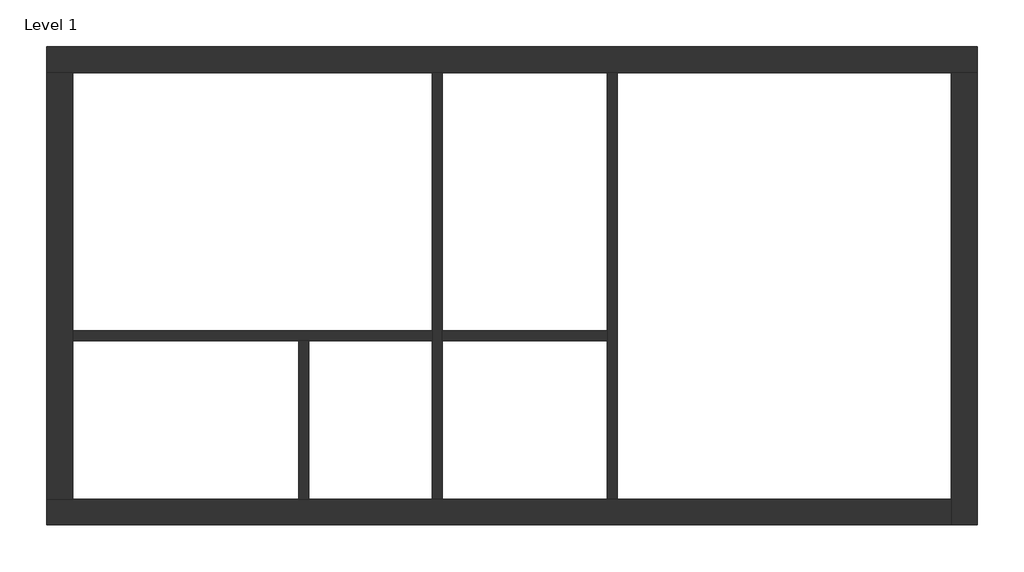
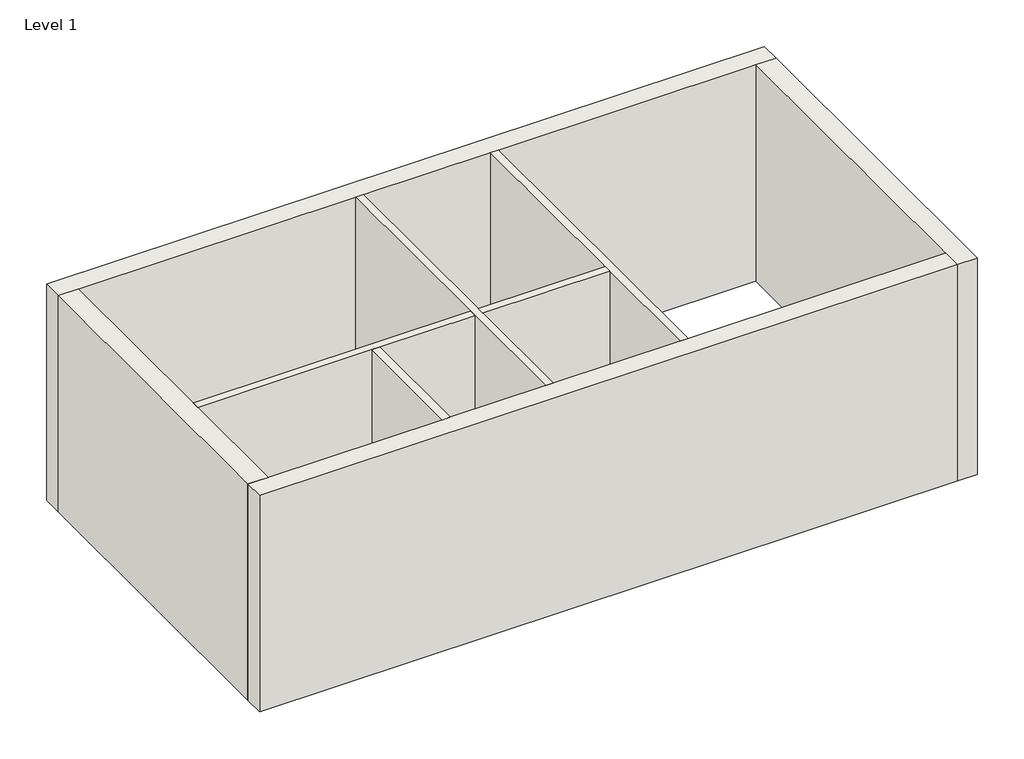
# One storey: 8 walls.
"""IFC4 building model written with IfcOpenShell, lengths in millimetres."""

from ifc_helpers import new_model, si_unit, origin, origin_with_axes, place, context, project, spatial, polyline, outline, extrude, faceted_brep, element, save

model = new_model("IFC4")

# Units and contexts
model_context = context("Model", 3, world=origin())
ifc_project = project(units=[si_unit("LENGTHUNIT", "METRE", prefix="MILLI")], contexts=[model_context])

# Site, building, storey
site = spatial("IfcSite", under=ifc_project)
building = spatial("IfcBuilding", under=site)
storey = spatial("IfcBuildingStorey", under=building, Name="Level 1", Elevation=0.0)

# Walls
placement = place(None, origin())
element("IfcWall", 1, ObjectType="Exterior - Brick on Mtl. Stud", at=placement, inside=storey, context=model_context, shape_type="Brep", body=[
    faceted_brep([(-15285.3416203, 2406.1188386, 0.0), (-14935.3416203, 2406.1188386, 0.0), (-10086.8416203, 2406.1188386, 0.0), (-9951.3416203, 2406.1188386, 0.0), (-7733.0916203, 2406.1188386, 0.0), (-7597.5916203, 2406.1188386, 0.0), (-3093.3416203, 2406.1188386, 0.0), (-2743.3416203, 2406.1188386, 0.0), (-2743.3416203, 2406.1188386, 4000.0), (-3093.3416203, 2406.1188386, 4000.0), (-7597.5916203, 2406.1188386, 4000.0), (-7733.0916203, 2406.1188386, 4000.0), (-9951.3416203, 2406.1188386, 4000.0), (-10086.8416203, 2406.1188386, 4000.0), (-14935.3416203, 2406.1188386, 4000.0), (-15285.3416203, 2406.1188386, 4000.0), (-15285.3416203, 2756.1188386, 0.0), (-15285.3416203, 2756.1188386, 4000.0), (-2743.3416203, 2756.1188386, 4000.0), (-2743.3416203, 2756.1188386, 0.0)], [[[0, 1, 2, 3, 4, 5, 6, 7, 8, 9, 10, 11, 12, 13, 14, 15]], [[16, 17, 18, 19]], [[7, 6, 5, 4, 3, 2, 1, 0, 16, 19]], [[15, 14, 13, 12, 11, 10, 9, 8, 18, 17]], [[8, 7, 19, 18]], [[0, 15, 17, 16]]]),
])
element("IfcWall", 2, ObjectType="Exterior - Brick on Mtl. Stud", at=placement, inside=storey, context=model_context, shape_type="Brep", body=[
    faceted_brep([(-3093.3416203, 2406.1188386, 0.0), (-3093.3416203, -3339.8811614, 0.0), (-3093.3416203, -3689.8811614, 0.0), (-3093.3416203, -3689.8811614, 4000.0), (-3093.3416203, -3339.8811614, 4000.0), (-3093.3416203, 2406.1188386, 4000.0), (-2743.3416203, 2406.1188386, 0.0), (-2743.3416203, 2406.1188386, 4000.0), (-2743.3416203, -3689.8811614, 4000.0), (-2743.3416203, -3689.8811614, 0.0)], [[[0, 1, 2, 3, 4, 5]], [[6, 7, 8, 9]], [[2, 1, 0, 6, 9]], [[5, 4, 3, 8, 7]], [[0, 5, 7, 6]], [[3, 2, 9, 8]]]),
])
element("IfcWall", 3, ObjectType="Exterior - Brick on Mtl. Stud", at=placement, inside=storey, context=model_context, shape_type="Brep", body=[
    faceted_brep([(-3093.3416203, -3339.8811614, 0.0), (-7597.5916203, -3339.8811614, 0.0), (-7733.0916203, -3339.8811614, 0.0), (-9951.3416203, -3339.8811614, 0.0), (-10086.8416203, -3339.8811614, 0.0), (-11751.8416203, -3339.8811614, 0.0), (-11887.3416203, -3339.8811614, 0.0), (-14935.3416203, -3339.8811614, 0.0), (-15285.3416203, -3339.8811614, 0.0), (-15285.3416203, -3339.8811614, 4000.0), (-14935.3416203, -3339.8811614, 4000.0), (-11887.3416203, -3339.8811614, 4000.0), (-11751.8416203, -3339.8811614, 4000.0), (-10086.8416203, -3339.8811614, 4000.0), (-9951.3416203, -3339.8811614, 4000.0), (-7733.0916203, -3339.8811614, 4000.0), (-7597.5916203, -3339.8811614, 4000.0), (-3093.3416203, -3339.8811614, 4000.0), (-3093.3416203, -3689.8811614, 0.0), (-3093.3416203, -3689.8811614, 4000.0), (-15285.3416203, -3689.8811614, 4000.0), (-15285.3416203, -3689.8811614, 0.0)], [[[0, 1, 2, 3, 4, 5, 6, 7, 8, 9, 10, 11, 12, 13, 14, 15, 16, 17]], [[18, 19, 20, 21]], [[8, 7, 6, 5, 4, 3, 2, 1, 0, 18, 21]], [[17, 16, 15, 14, 13, 12, 11, 10, 9, 20, 19]], [[0, 17, 19, 18]], [[9, 8, 21, 20]]]),
])
element("IfcWall", 4, ObjectType="Exterior - Brick on Mtl. Stud", at=placement, inside=storey, context=model_context, shape_type="Brep", body=[
    faceted_brep([(-14935.3416203, -3339.8811614, 0.0), (-14935.3416203, -1205.8811614, 0.0), (-14935.3416203, -1070.3811614, 0.0), (-14935.3416203, 2406.1188386, 0.0), (-14935.3416203, 2406.1188386, 4000.0), (-14935.3416203, -1070.3811614, 4000.0), (-14935.3416203, -1205.8811614, 4000.0), (-14935.3416203, -3339.8811614, 4000.0), (-15285.3416203, -3339.8811614, 0.0), (-15285.3416203, -3339.8811614, 4000.0), (-15285.3416203, 2406.1188386, 4000.0), (-15285.3416203, 2406.1188386, 0.0)], [[[0, 1, 2, 3, 4, 5, 6, 7]], [[8, 9, 10, 11]], [[3, 2, 1, 0, 8, 11]], [[7, 6, 5, 4, 10, 9]], [[0, 7, 9, 8]], [[4, 3, 11, 10]]]),
])
element("IfcWall", 5, ObjectType="Interior - 135mm Partition (2-hr)", at=placement, inside=storey, context=model_context, shape_type="Brep", body=[
    faceted_brep([(-7733.0916203, 2406.1188386, 0.0), (-7733.0916203, -1070.3811614, 0.0), (-7733.0916203, -1205.8811614, 0.0), (-7733.0916203, -3339.8811614, 0.0), (-7733.0916203, -3339.8811614, 4000.0), (-7733.0916203, -1205.8811614, 4000.0), (-7733.0916203, -1070.3811614, 4000.0), (-7733.0916203, 2406.1188386, 4000.0), (-7597.5916203, 2406.1188386, 0.0), (-7597.5916203, 2406.1188386, 4000.0), (-7597.5916203, -3339.8811614, 4000.0), (-7597.5916203, -3339.8811614, 0.0)], [[[0, 1, 2, 3, 4, 5, 6, 7]], [[8, 9, 10, 11]], [[3, 2, 1, 0, 8, 11]], [[7, 6, 5, 4, 10, 9]], [[0, 7, 9, 8]], [[4, 3, 11, 10]]]),
])
element("IfcWall", 6, ObjectType="Interior - 135mm Partition (2-hr)", at=placement, inside=storey, context=model_context, shape_type="Brep", body=[
    faceted_brep([(-10086.8416203, 2406.1188386, 0.0), (-10086.8416203, -1070.3811614, 0.0), (-10086.8416203, -1205.8811614, 0.0), (-10086.8416203, -3339.8811614, 0.0), (-10086.8416203, -3339.8811614, 4000.0), (-10086.8416203, -1205.8811614, 4000.0), (-10086.8416203, -1070.3811614, 4000.0), (-10086.8416203, 2406.1188386, 4000.0), (-9951.3416203, 2406.1188386, 0.0), (-9951.3416203, 2406.1188386, 4000.0), (-9951.3416203, -1070.3811614, 4000.0), (-9951.3416203, -1205.8811614, 4000.0), (-9951.3416203, -3339.8811614, 4000.0), (-9951.3416203, -3339.8811614, 0.0), (-9951.3416203, -1205.8811614, 0.0), (-9951.3416203, -1070.3811614, 0.0)], [[[0, 1, 2, 3, 4, 5, 6, 7]], [[8, 9, 10, 11, 12, 13, 14, 15]], [[3, 2, 1, 0, 8, 15, 14, 13]], [[7, 6, 5, 4, 12, 11, 10, 9]], [[0, 7, 9, 8]], [[4, 3, 13, 12]]]),
])
element("IfcWall", 7, ObjectType="Interior - 135mm Partition (2-hr)", at=placement, inside=storey, context=model_context, shape_type="Brep", body=[
    faceted_brep([(-14935.3416203, -1205.8811614, 4000.0), (-14935.3416203, -1205.8811614, 0.0), (-11887.3416203, -1205.8811614, 0.0), (-11751.8416203, -1205.8811614, 0.0), (-10086.8416203, -1205.8811614, 0.0), (-10086.8416203, -1205.8811614, 4000.0), (-11751.8416203, -1205.8811614, 4000.0), (-11887.3416203, -1205.8811614, 4000.0), (-14935.3416203, -1070.3811614, 0.0), (-14935.3416203, -1070.3811614, 4000.0), (-10086.8416203, -1070.3811614, 4000.0), (-10086.8416203, -1070.3811614, 0.0)], [[[0, 1, 2, 3, 4, 5, 6, 7]], [[8, 9, 10, 11]], [[1, 8, 11, 4, 3, 2]], [[9, 0, 7, 6, 5, 10]], [[1, 0, 9, 8]], [[5, 4, 11, 10]]]),
    faceted_brep([(-7733.0916203, -1205.8811614, 0.0), (-7733.0916203, -1205.8811614, 4000.0), (-9951.3416203, -1205.8811614, 4000.0), (-9951.3416203, -1205.8811614, 0.0), (-7733.0916203, -1070.3811614, 4000.0), (-7733.0916203, -1070.3811614, 0.0), (-9951.3416203, -1070.3811614, 0.0), (-9951.3416203, -1070.3811614, 4000.0)], [[[0, 1, 2, 3]], [[4, 5, 6, 7]], [[5, 0, 3, 6]], [[1, 4, 7, 2]], [[1, 0, 5, 4]], [[3, 2, 7, 6]]]),
])
element("IfcWall", 8, ObjectType="Interior - 135mm Partition (2-hr)", at=placement, inside=storey, context=model_context, shape_type="SweptSolid", body=[
    extrude(outline(polyline([(-11751.8416203, -1205.8811614), (-11751.8416203, -3339.8811614), (-11887.3416203, -3339.8811614), (-11887.3416203, -1205.8811614), (-11751.8416203, -1205.8811614)])), origin_with_axes(), (0.0, 0.0, 1.0), 4000.0),
])

save(model, "model.ifc")
